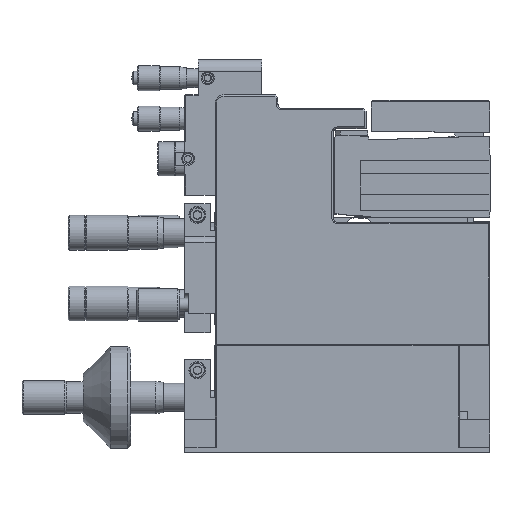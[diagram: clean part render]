
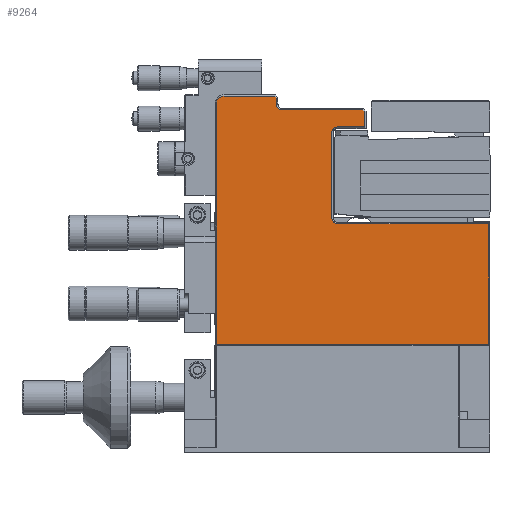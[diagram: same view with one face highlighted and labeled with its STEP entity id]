
A CAD part, top view. The second image highlights one B-rep face of the part: STEP entity #9264.
In plain terms, the highlighted planar face has unit normal (0, 0, 1).
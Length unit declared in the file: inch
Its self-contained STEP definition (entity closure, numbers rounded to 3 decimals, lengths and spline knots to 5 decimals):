
#2872=EDGE_CURVE('P5-L-MMMM-N-2-HN-I[2]',#9444,#9445,#9446,.T.);
#5565=EDGE_CURVE('P5-L-MMMM-N-2-HN-I[2]',#13573,#10375,#13574,.T.);
#5600=EDGE_CURVE('P5-L-MMMM-N-2-HN-I[2]',#9445,#13573,#13619,.T.);
#5742=EDGE_CURVE('P5-L-MMMM-N-2-HN-I[2]',#13808,#11089,#13809,.T.);
#5764=EDGE_CURVE('P5-L-MMMM-N-2-HN-I[2]',#11089,#13840,#13841,.T.);
#6961=EDGE_CURVE('P5-L-MMMM-N-2-HN-I[2]',#12789,#13808,#15395,.T.);
#7207=EDGE_CURVE('P5-L-MMMM-N-2-HN-I[2]',#10375,#13155,#15700,.T.);
#7348=EDGE_CURVE('P5-L-MMMM-N-2-HN-I[2]',#12147,#15307,#15872,.T.);
#7440=EDGE_CURVE('P5-L-MMMM-N-2-HN-I[2]',#14773,#15985,#15986,.T.);
#7548=EDGE_CURVE('P5-L-MMMM-N-2-HN-I[2]',#13155,#12789,#16110,.T.);
#8238=EDGE_CURVE('P5-L-MMMM-N-2-HN-I[2]',#14017,#11815,#16971,.F.);
#8505=EDGE_CURVE('P5-L-MMMM-N-2-HN-I[2]',#13840,#12147,#17294,.T.);
#8593=EDGE_CURVE('P5-L-MMMM-N-2-HN-I[2]',#11815,#9444,#17403,.F.);
#8717=EDGE_CURVE('P5-L-MMMM-N-2-HN-I[2]',#14773,#14017,#17552,.T.);
#8742=EDGE_CURVE('P5-L-MMMM-N-2-HN-I[2]',#15355,#15985,#17581,.T.);
#9056=EDGE_CURVE('P5-L-MMMM-N-2-HN-I[2]',#15307,#15355,#17972,.T.);
#9264=ADVANCED_FACE('P5-L-MMMM-N-2-HN-I[2]',(#18219),#18220,.T.);
#9444=VERTEX_POINT('',#18435);
#9445=VERTEX_POINT('',#18436);
#9446=LINE('',#18437,#18438);
#10375=VERTEX_POINT('',#19760);
#11089=VERTEX_POINT('',#20810);
#11815=VERTEX_POINT('',#21870);
#12147=VERTEX_POINT('',#22402);
#12789=VERTEX_POINT('',#23328);
#13155=VERTEX_POINT('',#23891);
#13573=VERTEX_POINT('',#24566);
#13574=CIRCLE('',#24567,0.085);
#13619=LINE('',#24637,#24638);
#13808=VERTEX_POINT('',#24948);
#13809=LINE('',#24949,#24950);
#13840=VERTEX_POINT('',#24993);
#13841=CIRCLE('',#24994,0.085);
#14017=VERTEX_POINT('',#25268);
#14773=VERTEX_POINT('',#26474);
#15307=VERTEX_POINT('',#27385);
#15355=VERTEX_POINT('',#27458);
#15395=LINE('',#27516,#27517);
#15700=LINE('',#28038,#28039);
#15872=CIRCLE('',#28315,0.085);
#15985=VERTEX_POINT('',#28498);
#15986=LINE('',#28499,#28500);
#16110=LINE('',#28718,#28719);
#16971=CIRCLE('',#30067,0.11);
#17294=LINE('',#30585,#30586);
#17403=LINE('',#30783,#30784);
#17552=LINE('',#31048,#31049);
#17581=LINE('',#31094,#31095);
#17972=LINE('',#31726,#31727);
#18219=FACE_OUTER_BOUND('',#32146,.T.);
#18220=PLANE('',#32147);
#18435=CARTESIAN_POINT('',(-4.17328,-0.44,0.875));
#18436=CARTESIAN_POINT('',(-4.145,-0.46828,0.875));
#18437=CARTESIAN_POINT('',(-3.23914,-1.37414,0.875));
#18438=VECTOR('',#32401,1.0);
#19760=CARTESIAN_POINT('',(-4.06,-0.645,0.875));
#20810=CARTESIAN_POINT('',(-3.245,-0.895,0.875));
#21870=CARTESIAN_POINT('',(-4.92,-0.44,0.875));
#22402=CARTESIAN_POINT('',(-3.33,-2.235,0.875));
#23328=CARTESIAN_POINT('',(-2.845,-0.67328,0.875));
#23891=CARTESIAN_POINT('',(-2.87328,-0.645,0.875));
#24566=CARTESIAN_POINT('',(-4.145,-0.56,0.875));
#24567=AXIS2_PLACEMENT_3D('',#36766,#36767,#36768);
#24637=CARTESIAN_POINT('',(-4.145,-1.74875,0.875));
#24638=VECTOR('',#36811,1.0);
#24948=CARTESIAN_POINT('',(-2.845,-0.895,0.875));
#24949=CARTESIAN_POINT('',(-3.02375,-0.895,0.875));
#24950=VECTOR('',#37036,1.0);
#24993=CARTESIAN_POINT('',(-3.33,-0.98,0.875));
#24994=AXIS2_PLACEMENT_3D('',#37069,#37070,#37071);
#25268=CARTESIAN_POINT('',(-5.03,-0.55,0.875));
#26474=CARTESIAN_POINT('',(-5.03,-4.1,0.875));
#27385=CARTESIAN_POINT('',(-3.245,-2.32,0.875));
#27458=CARTESIAN_POINT('',(-1.02,-2.32,0.875));
#27516=CARTESIAN_POINT('',(-2.845,-1.875,0.875));
#27517=VECTOR('',#38874,1.0);
#28038=CARTESIAN_POINT('',(-3.225,-0.645,0.875));
#28039=VECTOR('',#39238,1.0);
#28315=AXIS2_PLACEMENT_3D('',#39418,#39419,#39420);
#28498=CARTESIAN_POINT('',(-1.02,-4.1,0.875));
#28499=CARTESIAN_POINT('',(-3.025,-4.1,0.875));
#28500=VECTOR('',#39556,1.0);
#28718=CARTESIAN_POINT('',(-2.31539,-1.20289,0.875));
#28719=VECTOR('',#39703,1.0);
#30067=AXIS2_PLACEMENT_3D('',#40844,#40845,#40846);
#30585=CARTESIAN_POINT('',(-3.33,-2.29125,0.875));
#30586=VECTOR('',#41266,1.0);
#30783=CARTESIAN_POINT('',(-3.025,-0.44,0.875));
#30784=VECTOR('',#41403,1.0);
#31048=CARTESIAN_POINT('',(-5.03,-1.73232,0.875));
#31049=VECTOR('',#41593,1.0);
#31094=CARTESIAN_POINT('',(-1.02,-3.485,0.875));
#31095=VECTOR('',#41627,1.0);
#31726=CARTESIAN_POINT('',(-2.07125,-2.32,0.875));
#31727=VECTOR('',#42207,1.0);
#32146=EDGE_LOOP('',(#42488,#42489,#42490,#42491,#42492,#42493,#42494,#42495,#42496,#42497,#42498,#42499,#42500,#42501,#42502,#42503));
#32147=AXIS2_PLACEMENT_3D('',#42504,#42505,#42506);
#32401=DIRECTION('',(0.707,-0.707,0.0));
#36766=CARTESIAN_POINT('',(-4.06,-0.56,0.875));
#36767=DIRECTION('',(0.0,0.0,1.0));
#36768=DIRECTION('',(-0.707,-0.707,0.0));
#36811=DIRECTION('',(0.0,-1.0,-0.0));
#37036=DIRECTION('',(-1.0,0.0,0.0));
#37069=CARTESIAN_POINT('',(-3.245,-0.98,0.875));
#37070=DIRECTION('',(0.0,0.0,1.0));
#37071=DIRECTION('',(-0.707,0.707,0.0));
#38874=DIRECTION('',(0.0,-1.0,0.0));
#39238=DIRECTION('',(1.0,0.0,0.0));
#39418=CARTESIAN_POINT('',(-3.245,-2.235,0.875));
#39419=DIRECTION('',(0.0,0.0,1.0));
#39420=DIRECTION('',(-0.707,-0.707,0.0));
#39556=DIRECTION('',(1.0,0.0,0.0));
#39703=DIRECTION('',(0.707,-0.707,0.0));
#40844=CARTESIAN_POINT('',(-4.92,-0.55,0.875));
#40845=DIRECTION('',(0.0,0.0,1.0));
#40846=DIRECTION('',(-0.707,0.707,0.0));
#41266=DIRECTION('',(0.0,-1.0,0.0));
#41403=DIRECTION('',(-1.0,0.0,0.0));
#41593=DIRECTION('',(0.0,1.0,0.0));
#41627=DIRECTION('',(0.0,-1.0,-0.0));
#42207=DIRECTION('',(1.0,0.0,0.0));
#42488=ORIENTED_EDGE('',*,*,#8593,.F.);
#42489=ORIENTED_EDGE('',*,*,#8238,.F.);
#42490=ORIENTED_EDGE('',*,*,#8717,.F.);
#42491=ORIENTED_EDGE('',*,*,#7440,.T.);
#42492=ORIENTED_EDGE('',*,*,#8742,.F.);
#42493=ORIENTED_EDGE('',*,*,#9056,.F.);
#42494=ORIENTED_EDGE('',*,*,#7348,.F.);
#42495=ORIENTED_EDGE('',*,*,#8505,.F.);
#42496=ORIENTED_EDGE('',*,*,#5764,.F.);
#42497=ORIENTED_EDGE('',*,*,#5742,.F.);
#42498=ORIENTED_EDGE('',*,*,#6961,.F.);
#42499=ORIENTED_EDGE('',*,*,#7548,.F.);
#42500=ORIENTED_EDGE('',*,*,#7207,.F.);
#42501=ORIENTED_EDGE('',*,*,#5565,.F.);
#42502=ORIENTED_EDGE('',*,*,#5600,.F.);
#42503=ORIENTED_EDGE('',*,*,#2872,.F.);
#42504=CARTESIAN_POINT('',(-3.025,-3.0,0.875));
#42505=DIRECTION('',(0.0,0.0,1.0));
#42506=DIRECTION('',(0.0,-1.0,0.0));
